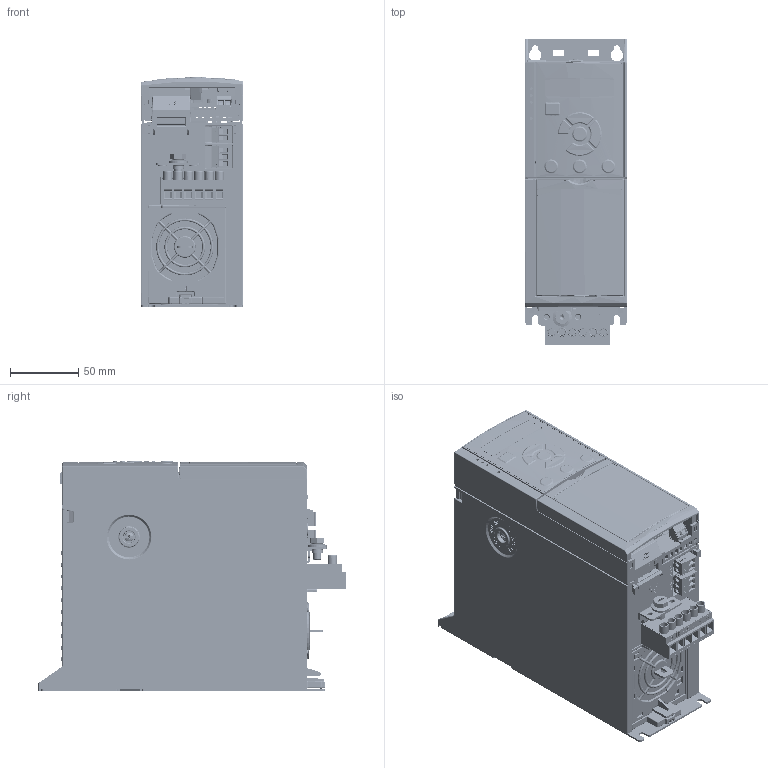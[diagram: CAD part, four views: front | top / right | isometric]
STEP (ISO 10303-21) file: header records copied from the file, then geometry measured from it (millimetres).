
FILE_DESCRIPTION((''),'2;1');
FILE_NAME('FC360_J1-IP20','2013-02-04T',('U238965'),('Danfoss Power Electronics'),'PRO/ENGINEER BY PARAMETRIC TECHNOLOGY CORPORATION, 2011490','PRO/ENGINEER BY PARAMETRIC TECHNOLOGY CORPORATION, 2011490','');
FILE_SCHEMA(('CONFIG_CONTROL_DESIGN', 'GEOMETRIC_VALIDATION_PROPERTIES_MIM'));
Products named in the file (1): FC360_J1-IP20
Bounding box: 75 x 225.7 x 168.5 mm (x, y, z)
Volume: 1803742.9 mm3; surface area: 365253.1 mm2
Topology: 18 solids, 58 shells, 18651 faces, 52092 edges, 33860 vertices
Faces by surface type: plane 13527, cylinder 3145, bspline 676, cone 537, torus 490, sphere 193, extrusion 83
Entity records: 904645 total; most frequent: CARTESIAN_POINT 188255, ORIENTED_EDGE 103776, DIRECTION 85214, PRESENTATION_STYLE_ASSIGNMENT 65762, STYLED_ITEM 51988, CURVE_STYLE 51971, EDGE_CURVE 51888, VECTOR 34164
